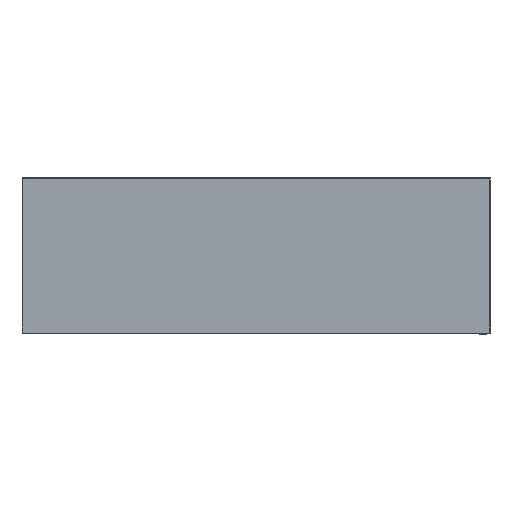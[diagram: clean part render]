
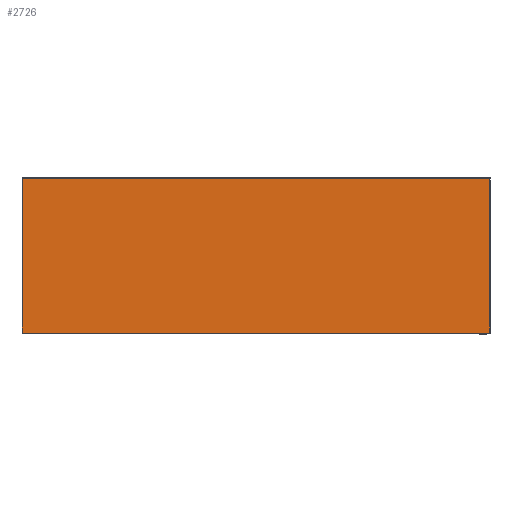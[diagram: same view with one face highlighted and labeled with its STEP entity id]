
A CAD part, top view. The second image highlights one B-rep face of the part: STEP entity #2726.
In plain terms, the highlighted planar face has unit normal (0, 0, 1).
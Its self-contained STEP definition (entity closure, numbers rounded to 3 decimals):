
#450=FACE_OUTER_BOUND('',#620,.T.);
#620=EDGE_LOOP('',(#2021,#2022,#2023,#2024));
#801=LINE('',#4225,#1043);
#820=LINE('',#4271,#1062);
#841=LINE('',#4321,#1083);
#853=LINE('',#4348,#1095);
#1043=VECTOR('',#3316,10.);
#1062=VECTOR('',#3363,10.);
#1083=VECTOR('',#3414,10.);
#1095=VECTOR('',#3450,10.);
#1284=VERTEX_POINT('',#4222);
#1285=VERTEX_POINT('',#4224);
#1298=VERTEX_POINT('',#4270);
#1312=VERTEX_POINT('',#4320);
#1516=EDGE_CURVE('',#1285,#1284,#801,.T.);
#1539=EDGE_CURVE('',#1298,#1285,#820,.T.);
#1564=EDGE_CURVE('',#1312,#1298,#841,.T.);
#1579=EDGE_CURVE('',#1312,#1284,#853,.T.);
#2021=ORIENTED_EDGE('',*,*,#1516,.T.);
#2022=ORIENTED_EDGE('',*,*,#1579,.F.);
#2023=ORIENTED_EDGE('',*,*,#1564,.T.);
#2024=ORIENTED_EDGE('',*,*,#1539,.T.);
#2609=PLANE('',#3000);
#2726=ADVANCED_FACE('',(#450),#2609,.T.);
#3000=AXIS2_PLACEMENT_3D('',#4350,#3453,#3454);
#3316=DIRECTION('',(0.,1.,0.));
#3363=DIRECTION('',(1.,0.,0.));
#3414=DIRECTION('',(0.,-1.,0.));
#3450=DIRECTION('',(1.,0.,0.));
#3453=DIRECTION('center_axis',(0.,0.,1.));
#3454=DIRECTION('ref_axis',(1.,0.,0.));
#4222=CARTESIAN_POINT('',(66.9,1050.,0.8));
#4224=CARTESIAN_POINT('',(66.9,-750.4,0.8));
#4225=CARTESIAN_POINT('',(66.9,-300.7,0.8));
#4270=CARTESIAN_POINT('',(-529.9,-750.4,0.8));
#4271=CARTESIAN_POINT('',(-380.7,-750.4,0.8));
#4320=CARTESIAN_POINT('',(-529.9,1050.,0.8));
#4321=CARTESIAN_POINT('',(-529.9,599.5,0.8));
#4348=CARTESIAN_POINT('',(68.5,1050.,0.8));
#4350=CARTESIAN_POINT('Origin',(-231.5,149.,0.8));
